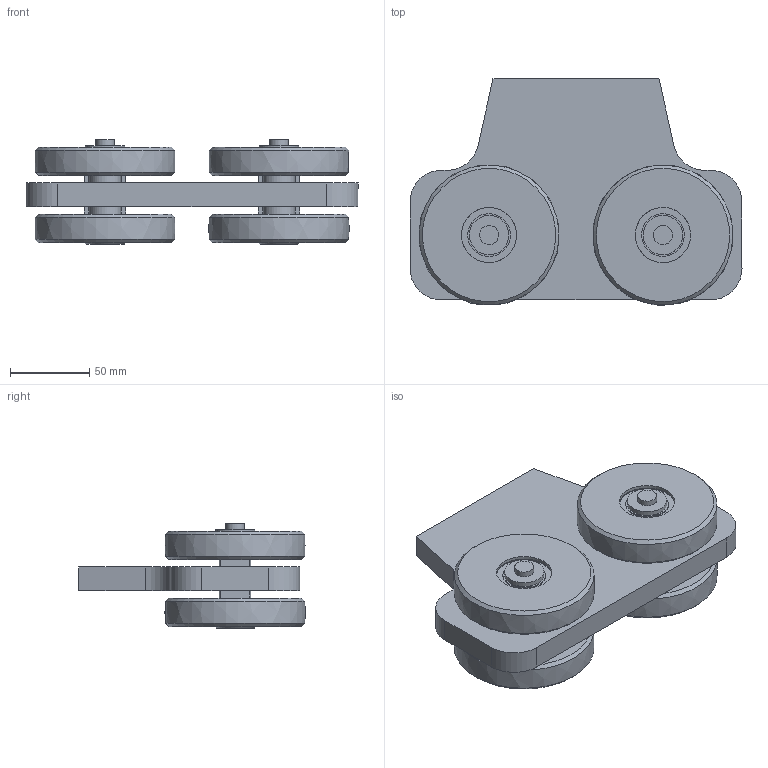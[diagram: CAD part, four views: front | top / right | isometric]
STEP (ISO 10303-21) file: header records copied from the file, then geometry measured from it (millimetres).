
FILE_DESCRIPTION(/* description */ ('Brennteil'),/* implementation_level */ '2;1');
FILE_NAME(/* name */ 'Q:\sge-ma\Produktmanagement-STB\STB\Workspace\stp\010336855.stp',/* time_stamp */ '2015-07-10T10:34:07+02:00',/* author */ ('avschreier'),/* organization */ (''),/* preprocessor_version */ 'ST-DEVELOPER v15.6',/* originating_system */ 'Autodesk Inventor 2015',/* authorisation */ '');
FILE_SCHEMA (('CONFIG_CONTROL_DESIGN'));
Length unit declared in the file: millimetre
Products named in the file (8): 000302093; 000302113; 000302023; 337000284; DIN_625-6004_ZZ_en; 000302024; DIN_1440-12_en; 010336855
Bounding box: 210 x 143.42 x 66 mm (x, y, z)
Volume: 748504.9 mm3; surface area: 177089.3 mm2
Topology: 21 solids, 25 shells, 397 faces, 1088 edges, 718 vertices
Faces by surface type: plane 195, cylinder 76, torus 72, sphere 28, cone 22, bspline 4
Full cylindrical faces by diameter (mm): 12 x4, 19.9 x2, 20 x4, 25 x2, 26 x2, 27.04 x16, 34.96 x16, 35 x4, 42 x8
Entity records: 4403 total; most frequent: CARTESIAN_POINT 1379, DIRECTION 598, ORIENTED_EDGE 538, EDGE_CURVE 269, AXIS2_PLACEMENT_3D 241, VERTEX_POINT 194, EDGE_LOOP 175, ADVANCED_FACE 119
